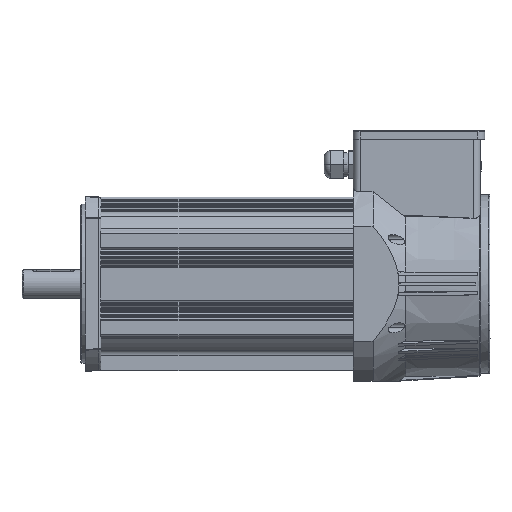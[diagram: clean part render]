
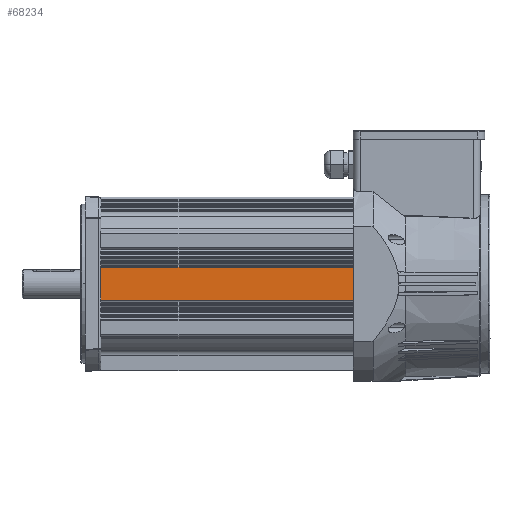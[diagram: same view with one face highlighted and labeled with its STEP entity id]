
A CAD part, top view. The second image highlights one B-rep face of the part: STEP entity #68234.
In plain terms, the highlighted planar face has unit normal (0, 0, 1) as drawn and (1, 0, 0) by its records, which use the part's own axes.
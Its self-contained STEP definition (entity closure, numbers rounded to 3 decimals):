
#3700 = DIRECTION ( 'NONE',  ( 0., 0., -1. ) ) ;
#6595 = DIRECTION ( 'NONE',  ( 0., 0., -1. ) ) ;
#7447 = CARTESIAN_POINT ( 'NONE',  ( 249.815, 131.763, -377.205 ) ) ;
#8065 = EDGE_CURVE ( 'NONE', #53265, #20463, #58015, .T. ) ;
#8860 = EDGE_CURVE ( 'NONE', #53265, #108805, #77134, .T. ) ;
#17524 = CARTESIAN_POINT ( 'NONE',  ( 249.815, 162.775, -137.205 ) ) ;
#18971 = ORIENTED_EDGE ( 'NONE', *, *, #24246, .T. ) ;
#20463 = VERTEX_POINT ( 'NONE', #7447 ) ;
#24246 = EDGE_CURVE ( 'NONE', #60923, #20463, #28855, .T. ) ;
#28855 = LINE ( 'NONE', #85366, #38508 ) ;
#38356 = ORIENTED_EDGE ( 'NONE', *, *, #111801, .T. ) ;
#38508 = VECTOR ( 'NONE', #6595, 1000. ) ;
#47727 = DIRECTION ( 'NONE',  ( 1., 0., 0. ) ) ;
#47908 = DIRECTION ( 'NONE',  ( 0., -1., 0. ) ) ;
#52011 = ORIENTED_EDGE ( 'NONE', *, *, #8065, .F. ) ;
#53265 = VERTEX_POINT ( 'NONE', #112172 ) ;
#54318 = CARTESIAN_POINT ( 'NONE',  ( 249.815, 162.775, -137.205 ) ) ;
#56618 = LINE ( 'NONE', #111321, #77282 ) ;
#58015 = LINE ( 'NONE', #74556, #99413 ) ;
#58057 = DIRECTION ( 'NONE',  ( 0., -1., 0. ) ) ;
#59309 = AXIS2_PLACEMENT_3D ( 'NONE', #91740, #47727, #3700 ) ;
#60923 = VERTEX_POINT ( 'NONE', #68847 ) ;
#68234 = ADVANCED_FACE ( 'NONE', ( #81010 ), #108766, .T. ) ;
#68847 = CARTESIAN_POINT ( 'NONE',  ( 249.815, 131.763, -137.205 ) ) ;
#74556 = CARTESIAN_POINT ( 'NONE',  ( 249.815, 0., -377.205 ) ) ;
#77134 = LINE ( 'NONE', #17524, #86766 ) ;
#77282 = VECTOR ( 'NONE', #58057, 1000. ) ;
#81010 = FACE_OUTER_BOUND ( 'NONE', #106522, .T. ) ;
#85366 = CARTESIAN_POINT ( 'NONE',  ( 249.815, 131.763, -137.205 ) ) ;
#86766 = VECTOR ( 'NONE', #104451, 1000. ) ;
#91740 = CARTESIAN_POINT ( 'NONE',  ( 249.815, 163.269, -137.205 ) ) ;
#99413 = VECTOR ( 'NONE', #47908, 1000. ) ;
#104451 = DIRECTION ( 'NONE',  ( 0., 0., 1. ) ) ;
#106522 = EDGE_LOOP ( 'NONE', ( #52011, #111073, #38356, #18971 ) ) ;
#108766 = PLANE ( 'NONE',  #59309 ) ;
#108805 = VERTEX_POINT ( 'NONE', #54318 ) ;
#111073 = ORIENTED_EDGE ( 'NONE', *, *, #8860, .T. ) ;
#111321 = CARTESIAN_POINT ( 'NONE',  ( 249.815, 163.269, -137.205 ) ) ;
#111801 = EDGE_CURVE ( 'NONE', #108805, #60923, #56618, .T. ) ;
#112172 = CARTESIAN_POINT ( 'NONE',  ( 249.815, 162.775, -377.205 ) ) ;
